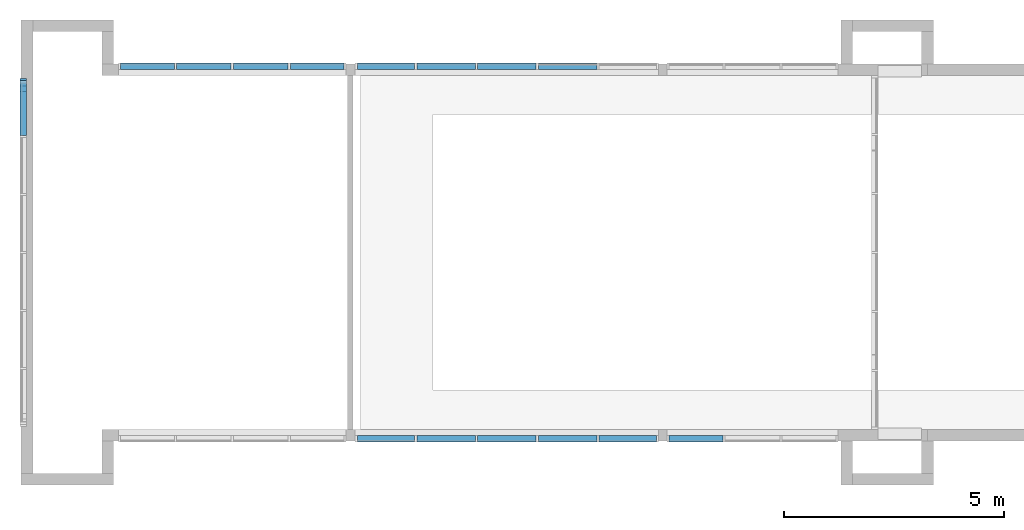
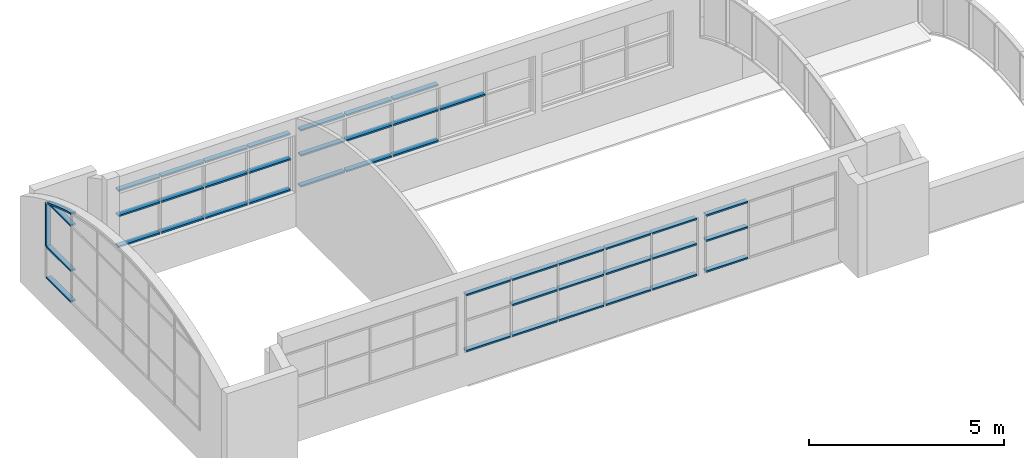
# One storey, part 2 of 14: 44 members, 5 elements without a shape of their own.
"""IFC2X3 building model written with IfcOpenShell, lengths in metres."""

from ifc_helpers import new_model, entity, si_unit, converted_unit, frame, frame_2d, origin, origin_2d_with_axis, place, context, project, spatial, polyline, circle_curve, parameter, trimmed, segment, composite_curve, rectangle, outline, extrude, source, transform, mapped, material, type_object, type_shapes, element, aggregate, save


model = new_model("IFC2X3")

# Units and contexts
model_context = context("Model", 3, precision=1e-09, world=origin())
plan_context = context("Plan", 3, precision=1e-09, world=origin())
ifc_project = project(units=[si_unit("LENGTHUNIT", "METRE"), si_unit("AREAUNIT", "SQUARE_METRE"), si_unit("VOLUMEUNIT", "CUBIC_METRE"), converted_unit("PLANEANGLEUNIT", "DEGREE", entity("IfcRatioMeasure", 0.01745329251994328), si_unit("PLANEANGLEUNIT", "RADIAN"), dimensions=[0, 0, 0, 0, 0, 0, 0]), si_unit("TIMEUNIT", "SECOND")], contexts=[model_context, plan_context])

# Site, building, storey
site_placement = place(None, origin())
site = spatial("IfcSite", under=ifc_project, at=site_placement, Name="Default", CompositionType="ELEMENT")
building_placement = place(site_placement, origin())
building = spatial("IfcBuilding", under=site, at=building_placement, CompositionType="ELEMENT")
storey_placement = place(building_placement, frame((0.0, 0.0, 9.25000000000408)))
storey = spatial("IfcBuildingStorey", under=building, at=storey_placement, Name="Roof - Main", CompositionType="ELEMENT", Elevation=9.25000000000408)

# Curtain wall, members
curtain_wall_1_placement = place(storey_placement, origin())
curtain_wall_1 = element("IfcCurtainWall", 1, at=curtain_wall_1_placement, inside=storey, Name="Curtain Wall:Storefront", ObjectType="Curtain Wall:Storefront")
ifc_material = material(Name="Metal - Aluminium")
member_type_1 = type_object("IfcMemberType", Name="50 x 150mm", PredefinedType="MULLION")
shared_shape_1 = source(origin(), model_context, "Body", "SweptSolid", [
    extrude(rectangle(XDim=0.05, YDim=0.15, at=origin_2d_with_axis()), frame((-0.025, 0.0, -1.330999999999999), z_axis=(0.0, 0.0, 1.0), x_axis=(-1.0, 0.0, 0.0)), (0.0, 0.0, 1.0), 1.330999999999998),
])
type_shapes(member_type_1, [shared_shape_1])
member_1_placement = place(storey_placement, frame((-32.03800000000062, 27.45559600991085, 1.067), z_axis=(-1.0, 0.0, 0.0), x_axis=(0.0, 0.0, -1.0)))
member_1 = element("IfcMember", 2, at=member_1_placement, type_object=member_type_1, material=ifc_material, Name="Rectangular Mullion:50 x 150mm:50 x 150mm", ObjectType="50 x 150mm", context=model_context, shape_type="MappedRepresentation", body=[
    mapped(shared_shape_1, transform((0.0, 0.0, 0.0), scale=1.0)),
])
member_2_placement = place(storey_placement, frame((-29.27600000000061, 27.45559600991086, 1.067), z_axis=(-1.0, 0.0, 0.0), x_axis=(0.0, 0.0, -1.0)))
member_2 = element("IfcMember", 3, at=member_2_placement, type_object=member_type_1, material=ifc_material, Name="Rectangular Mullion:50 x 150mm:50 x 150mm", ObjectType="50 x 150mm", context=model_context, shape_type="MappedRepresentation", body=[
    mapped(shared_shape_1, transform((0.0, 0.0, 0.0), scale=1.0)),
])

curtain_wall_2_placement = place(storey_placement, origin())
curtain_wall_2 = element("IfcCurtainWall", 4, at=curtain_wall_2_placement, inside=storey, Name="Curtain Wall:Storefront", ObjectType="Curtain Wall:Storefront")
member_type_2 = type_object("IfcMemberType", Name="50 x 150mm", PredefinedType="MULLION")
type_shapes(member_type_2, [shared_shape_1])
member_3_placement = place(storey_placement, frame((-30.70700000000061, 35.93490399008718, 2.867), z_axis=(1.0, 0.0, 0.0), x_axis=(0.0, 0.0, 1.0)))
member_3 = element("IfcMember", 5, at=member_3_placement, type_object=member_type_2, material=ifc_material, Name="Rectangular Mullion:50 x 150mm:50 x 150mm", ObjectType="50 x 150mm", context=model_context, shape_type="MappedRepresentation", body=[
    mapped(shared_shape_1, transform((0.0, 0.0, 0.0), scale=1.0)),
])
member_type_3 = type_object("IfcMemberType", Name="50 x 150mm", PredefinedType="MULLION")
type_shapes(member_type_3, [shared_shape_1])
member_4_placement = place(storey_placement, frame((-30.65700000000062, 35.93490399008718, 1.067), z_axis=(-1.0, 0.0, 0.0), x_axis=(0.0, 0.0, -1.0)))
member_4 = element("IfcMember", 6, at=member_4_placement, type_object=member_type_3, material=ifc_material, Name="Rectangular Mullion:50 x 150mm:50 x 150mm", ObjectType="50 x 150mm", context=model_context, shape_type="MappedRepresentation", body=[
    mapped(shared_shape_1, transform((0.0, 0.0, 0.0), scale=1.0)),
])

# Member
member_5_placement = place(storey_placement, frame((-30.65700000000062, 27.45559600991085, 1.067), z_axis=(-1.0, 0.0, 0.0), x_axis=(0.0, 0.0, -1.0)))
member_5 = element("IfcMember", 7, at=member_5_placement, type_object=member_type_1, material=ifc_material, Name="Rectangular Mullion:50 x 150mm:50 x 150mm", ObjectType="50 x 150mm", context=model_context, shape_type="MappedRepresentation", body=[
    mapped(shared_shape_1, transform((0.0, 0.0, 0.0), scale=1.0)),
])

member_6_placement = place(storey_placement, frame((-29.32600000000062, 35.93490399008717, 2.867), z_axis=(1.0, 0.0, 0.0), x_axis=(0.0, 0.0, 1.0)))
member_6 = element("IfcMember", 8, at=member_6_placement, type_object=member_type_2, material=ifc_material, Name="Rectangular Mullion:50 x 150mm:50 x 150mm", ObjectType="50 x 150mm", context=model_context, shape_type="MappedRepresentation", body=[
    mapped(shared_shape_1, transform((0.0, 0.0, 0.0), scale=1.0)),
])

member_7_placement = place(storey_placement, frame((-32.03800000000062, 35.93490399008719, 1.067), z_axis=(-1.0, 0.0, 0.0), x_axis=(0.0, 0.0, -1.0)))
member_7 = element("IfcMember", 9, at=member_7_placement, type_object=member_type_3, material=ifc_material, Name="Rectangular Mullion:50 x 150mm:50 x 150mm", ObjectType="50 x 150mm", context=model_context, shape_type="MappedRepresentation", body=[
    mapped(shared_shape_1, transform((0.0, 0.0, 0.0), scale=1.0)),
])

# Curtain wall, members
curtain_wall_3_placement = place(storey_placement, origin())
curtain_wall_3 = element("IfcCurtainWall", 10, at=curtain_wall_3_placement, inside=storey, Name="Curtain Wall:Storefront", ObjectType="Curtain Wall:Storefront")
member_type_4 = type_object("IfcMemberType", Name="50 x 150mm", PredefinedType="MULLION")
shared_shape_2 = source(origin(), model_context, "Body", "SweptSolid", [
    extrude(rectangle(XDim=0.05, YDim=0.15, at=origin_2d_with_axis()), frame((-0.025, 0.0, -1.22), z_axis=(0.0, 0.0, 1.0), x_axis=(-1.0, 0.0, 0.0)), (0.0, 0.0, 1.0), 1.22),
])
type_shapes(member_type_4, [shared_shape_2])
member_8_placement = place(storey_placement, frame((-34.91600000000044, 35.93490399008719, 1.067), z_axis=(-1.0, 0.0, 0.0), x_axis=(0.0, 0.0, -1.0)))
member_8 = element("IfcMember", 11, at=member_8_placement, type_object=member_type_4, material=ifc_material, Name="Rectangular Mullion:50 x 150mm:50 x 150mm", ObjectType="50 x 150mm", context=model_context, shape_type="MappedRepresentation", body=[
    mapped(shared_shape_2, transform((0.0, 0.0, 0.0), scale=1.0)),
])
member_type_5 = type_object("IfcMemberType", Name="50 x 150mm", PredefinedType="MULLION")
type_shapes(member_type_5, [shared_shape_2])
member_9_placement = place(storey_placement, frame((-37.55600000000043, 35.9349039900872, 2.867), z_axis=(1.0, 0.0, 0.0), x_axis=(0.0, 0.0, 1.0)))
member_9 = element("IfcMember", 12, at=member_9_placement, type_object=member_type_5, material=ifc_material, Name="Rectangular Mullion:50 x 150mm:50 x 150mm", ObjectType="50 x 150mm", context=model_context, shape_type="MappedRepresentation", body=[
    mapped(shared_shape_2, transform((0.0, 0.0, 0.0), scale=1.0)),
])
member_10_placement = place(storey_placement, frame((-33.69600000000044, 35.93490399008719, 2.867), z_axis=(1.0, 0.0, 0.0), x_axis=(0.0, 0.0, 1.0)))
member_10 = element("IfcMember", 13, at=member_10_placement, type_object=member_type_5, material=ifc_material, Name="Rectangular Mullion:50 x 150mm:50 x 150mm", ObjectType="50 x 150mm", context=model_context, shape_type="MappedRepresentation", body=[
    mapped(shared_shape_2, transform((0.0, 0.0, 0.0), scale=1.0)),
])
member_11_placement = place(storey_placement, frame((-38.77600000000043, 35.93490399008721, 1.067), z_axis=(-1.0, 0.0, 0.0), x_axis=(0.0, 0.0, -1.0)))
member_11 = element("IfcMember", 14, at=member_11_placement, type_object=member_type_4, material=ifc_material, Name="Rectangular Mullion:50 x 150mm:50 x 150mm", ObjectType="50 x 150mm", context=model_context, shape_type="MappedRepresentation", body=[
    mapped(shared_shape_2, transform((0.0, 0.0, 0.0), scale=1.0)),
])

curtain_wall_4_placement = place(storey_placement, origin())
curtain_wall_4 = element("IfcCurtainWall", 15, at=curtain_wall_4_placement, inside=storey, Name="Curtain Wall:Storefront", ObjectType="Curtain Wall:Storefront")
member_type_6 = type_object("IfcMemberType", Name="50 x 150mm", PredefinedType="MULLION")
shared_shape_3 = source(origin(), model_context, "Body", "SweptSolid", [
    extrude(rectangle(XDim=0.05, YDim=0.15, at=origin_2d_with_axis()), frame((0.0, 0.0, -1.221666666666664), z_axis=(0.0, 0.0, 1.0), x_axis=(-1.0, 0.0, 0.0)), (0.0, 0.0, 1.0), 1.221666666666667),
])
type_shapes(member_type_6, [shared_shape_3])
member_12_placement = place(storey_placement, frame((-25.07833333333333, 27.45559600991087, 2.053894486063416), z_axis=(1.0, 0.0, 0.0), x_axis=(0.0, 0.0, 1.0)))
member_12 = element("IfcMember", 16, at=member_12_placement, type_object=member_type_6, material=ifc_material, Name="Rectangular Mullion:50 x 150mm:50 x 150mm", ObjectType="50 x 150mm", context=model_context, shape_type="MappedRepresentation", body=[
    mapped(shared_shape_3, transform((0.0, 0.0, 0.0), scale=1.0)),
])
member_type_7 = type_object("IfcMemberType", Name="50 x 150mm", PredefinedType="MULLION")
shared_shape_4 = source(origin(), model_context, "Body", "SweptSolid", [
    extrude(rectangle(XDim=0.05, YDim=0.15, at=origin_2d_with_axis()), frame((-0.025, 0.0, -1.221666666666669), z_axis=(0.0, 0.0, 1.0), x_axis=(-1.0, 0.0, 0.0)), (0.0, 0.0, 1.0), 1.221666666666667),
])
type_shapes(member_type_7, [shared_shape_4])
member_13_placement = place(storey_placement, frame((-26.29999999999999, 27.45559600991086, 1.067), z_axis=(-1.0, 0.0, 0.0), x_axis=(0.0, 0.0, -1.0)))
member_13 = element("IfcMember", 17, at=member_13_placement, type_object=member_type_7, material=ifc_material, Name="Rectangular Mullion:50 x 150mm:50 x 150mm", ObjectType="50 x 150mm", context=model_context, shape_type="MappedRepresentation", body=[
    mapped(shared_shape_4, transform((0.0, 0.0, 0.0), scale=1.0)),
])
member_type_8 = type_object("IfcMemberType", Name="50 x 150mm", PredefinedType="MULLION")
shared_shape_5 = source(origin(), model_context, "Body", "SweptSolid", [
    extrude(rectangle(XDim=0.05, YDim=0.15, at=origin_2d_with_axis()), frame((-0.025, 0.0, -1.221666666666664), z_axis=(0.0, 0.0, 1.0), x_axis=(-1.0, 0.0, 0.0)), (0.0, 0.0, 1.0), 1.221666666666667),
])
type_shapes(member_type_8, [shared_shape_5])
member_14_placement = place(storey_placement, frame((-25.07833333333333, 27.45559600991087, 2.867), z_axis=(1.0, 0.0, 0.0), x_axis=(0.0, 0.0, 1.0)))
member_14 = element("IfcMember", 18, at=member_14_placement, type_object=member_type_8, material=ifc_material, Name="Rectangular Mullion:50 x 150mm:50 x 150mm", ObjectType="50 x 150mm", context=model_context, shape_type="MappedRepresentation", body=[
    mapped(shared_shape_5, transform((0.0, 0.0, 0.0), scale=1.0)),
])
aggregate(curtain_wall_4, [member_12, member_14, member_13])

# Member
member_type_9 = type_object("IfcMemberType", Name="50 x 150mm", PredefinedType="MULLION")
shared_shape_6 = source(origin(), model_context, "Body", "SweptSolid", [
    extrude(rectangle(XDim=0.05, YDim=0.15, at=origin_2d_with_axis()), frame((-0.025, 0.0, -1.305999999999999), z_axis=(0.0, 0.0, 1.0), x_axis=(-1.0, 0.0, 0.0)), (0.0, 0.0, 1.0), 1.305999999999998),
])
type_shapes(member_type_9, [shared_shape_6])
member_15_placement = place(storey_placement, frame((-33.39400000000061, 27.45559600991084, 1.067), z_axis=(-1.0, 0.0, 0.0), x_axis=(0.0, 0.0, -1.0)))
member_15 = element("IfcMember", 19, at=member_15_placement, type_object=member_type_9, material=ifc_material, Name="Rectangular Mullion:50 x 150mm:50 x 150mm", ObjectType="50 x 150mm", context=model_context, shape_type="MappedRepresentation", body=[
    mapped(shared_shape_6, transform((0.0, 0.0, 0.0), scale=1.0)),
])

member_type_10 = type_object("IfcMemberType", Name="50 x 150mm", PredefinedType="MULLION")
type_shapes(member_type_10, [shared_shape_6])
member_16_placement = place(storey_placement, frame((-33.39400000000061, 35.93490399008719, 1.067), z_axis=(-1.0, 0.0, 0.0), x_axis=(0.0, 0.0, -1.0)))
member_16 = element("IfcMember", 20, at=member_16_placement, type_object=member_type_10, material=ifc_material, Name="Rectangular Mullion:50 x 150mm:50 x 150mm", ObjectType="50 x 150mm", context=model_context, shape_type="MappedRepresentation", body=[
    mapped(shared_shape_6, transform((0.0, 0.0, 0.0), scale=1.0)),
])

member_17_placement = place(storey_placement, frame((-27.89500000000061, 27.45559600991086, 1.067), z_axis=(-1.0, 0.0, 0.0), x_axis=(0.0, 0.0, -1.0)))
member_17 = element("IfcMember", 21, at=member_17_placement, type_object=member_type_9, material=ifc_material, Name="Rectangular Mullion:50 x 150mm:50 x 150mm", ObjectType="50 x 150mm", context=model_context, shape_type="MappedRepresentation", body=[
    mapped(shared_shape_6, transform((0.0, 0.0, 0.0), scale=1.0)),
])

member_type_11 = type_object("IfcMemberType", Name="50 x 150mm", PredefinedType="MULLION")
shared_shape_7 = source(origin(), model_context, "Body", "SweptSolid", [
    extrude(rectangle(XDim=0.05, YDim=0.15, at=origin_2d_with_axis()), frame((-0.025, 0.0, -1.306000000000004), z_axis=(0.0, 0.0, 1.0), x_axis=(-1.0, 0.0, 0.0)), (0.0, 0.0, 1.0), 1.306000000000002),
])
type_shapes(member_type_11, [shared_shape_7])
member_18_placement = place(storey_placement, frame((-26.58900000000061, 27.45559600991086, 2.867), z_axis=(1.0, 0.0, 0.0), x_axis=(0.0, 0.0, 1.0)))
member_18 = element("IfcMember", 22, at=member_18_placement, type_object=member_type_11, material=ifc_material, Name="Rectangular Mullion:50 x 150mm:50 x 150mm", ObjectType="50 x 150mm", context=model_context, shape_type="MappedRepresentation", body=[
    mapped(shared_shape_7, transform((0.0, 0.0, 0.0), scale=1.0)),
])

member_type_12 = type_object("IfcMemberType", Name="50 x 150mm", PredefinedType="MULLION")
type_shapes(member_type_12, [shared_shape_7])
member_19_placement = place(storey_placement, frame((-32.08800000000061, 35.93490399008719, 2.867), z_axis=(1.0, 0.0, 0.0), x_axis=(0.0, 0.0, 1.0)))
member_19 = element("IfcMember", 23, at=member_19_placement, type_object=member_type_12, material=ifc_material, Name="Rectangular Mullion:50 x 150mm:50 x 150mm", ObjectType="50 x 150mm", context=model_context, shape_type="MappedRepresentation", body=[
    mapped(shared_shape_7, transform((0.0, 0.0, 0.0), scale=1.0)),
])

member_20_placement = place(storey_placement, frame((-32.08800000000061, 27.45559600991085, 2.867), z_axis=(1.0, 0.0, 0.0), x_axis=(0.0, 0.0, 1.0)))
member_20 = element("IfcMember", 24, at=member_20_placement, type_object=member_type_11, material=ifc_material, Name="Rectangular Mullion:50 x 150mm:50 x 150mm", ObjectType="50 x 150mm", context=model_context, shape_type="MappedRepresentation", body=[
    mapped(shared_shape_7, transform((0.0, 0.0, 0.0), scale=1.0)),
])

member_type_13 = type_object("IfcMemberType", Name="50 x 150mm", PredefinedType="MULLION")
shared_shape_8 = source(origin(), model_context, "Body", "SweptSolid", [
    extrude(rectangle(XDim=0.05, YDim=0.15, at=origin_2d_with_axis()), frame((0.0, 0.0, -1.330999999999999), z_axis=(0.0, 0.0, 1.0), x_axis=(-1.0, 0.0, 0.0)), (0.0, 0.0, 1.0), 1.330999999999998),
])
type_shapes(member_type_13, [shared_shape_8])
member_21_placement = place(storey_placement, frame((-27.94500000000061, 35.93490399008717, 2.053894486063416), z_axis=(1.0, 0.0, 0.0), x_axis=(0.0, 0.0, 1.0)))
member_21 = element("IfcMember", 25, at=member_21_placement, type_object=member_type_13, material=ifc_material, Name="Rectangular Mullion:50 x 150mm:50 x 150mm", ObjectType="50 x 150mm", context=model_context, shape_type="MappedRepresentation", body=[
    mapped(shared_shape_8, transform((0.0, 0.0, 0.0), scale=1.0)),
])

member_22_placement = place(storey_placement, frame((-29.32600000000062, 35.93490399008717, 2.053894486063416), z_axis=(1.0, 0.0, 0.0), x_axis=(0.0, 0.0, 1.0)))
member_22 = element("IfcMember", 26, at=member_22_placement, type_object=member_type_13, material=ifc_material, Name="Rectangular Mullion:50 x 150mm:50 x 150mm", ObjectType="50 x 150mm", context=model_context, shape_type="MappedRepresentation", body=[
    mapped(shared_shape_8, transform((0.0, 0.0, 0.0), scale=1.0)),
])

member_23_placement = place(storey_placement, frame((-30.70700000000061, 35.93490399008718, 2.053894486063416), z_axis=(1.0, 0.0, 0.0), x_axis=(0.0, 0.0, 1.0)))
member_23 = element("IfcMember", 27, at=member_23_placement, type_object=member_type_13, material=ifc_material, Name="Rectangular Mullion:50 x 150mm:50 x 150mm", ObjectType="50 x 150mm", context=model_context, shape_type="MappedRepresentation", body=[
    mapped(shared_shape_8, transform((0.0, 0.0, 0.0), scale=1.0)),
])

member_type_14 = type_object("IfcMemberType", Name="50 x 150mm", PredefinedType="MULLION")
shared_shape_9 = source(origin(), model_context, "Body", "SweptSolid", [
    extrude(rectangle(XDim=0.05, YDim=0.15, at=origin_2d_with_axis()), frame((0.0, 0.0, -1.331), z_axis=(0.0, 0.0, 1.0), x_axis=(-1.0, 0.0, 0.0)), (0.0, 0.0, 1.0), 1.330999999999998),
])
type_shapes(member_type_14, [shared_shape_9])
member_24_placement = place(storey_placement, frame((-29.32600000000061, 27.45559600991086, 2.053894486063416), z_axis=(1.0, 0.0, 0.0), x_axis=(0.0, 0.0, 1.0)))
member_24 = element("IfcMember", 28, at=member_24_placement, type_object=member_type_14, material=ifc_material, Name="Rectangular Mullion:50 x 150mm:50 x 150mm", ObjectType="50 x 150mm", context=model_context, shape_type="MappedRepresentation", body=[
    mapped(shared_shape_9, transform((0.0, 0.0, 0.0), scale=1.0)),
])

member_25_placement = place(storey_placement, frame((-30.70700000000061, 27.45559600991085, 2.053894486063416), z_axis=(1.0, 0.0, 0.0), x_axis=(0.0, 0.0, 1.0)))
member_25 = element("IfcMember", 29, at=member_25_placement, type_object=member_type_14, material=ifc_material, Name="Rectangular Mullion:50 x 150mm:50 x 150mm", ObjectType="50 x 150mm", context=model_context, shape_type="MappedRepresentation", body=[
    mapped(shared_shape_9, transform((0.0, 0.0, 0.0), scale=1.0)),
])

member_26_placement = place(storey_placement, frame((-27.94500000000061, 27.45559600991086, 2.053894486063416), z_axis=(1.0, 0.0, 0.0), x_axis=(0.0, 0.0, 1.0)))
member_26 = element("IfcMember", 30, at=member_26_placement, type_object=member_type_14, material=ifc_material, Name="Rectangular Mullion:50 x 150mm:50 x 150mm", ObjectType="50 x 150mm", context=model_context, shape_type="MappedRepresentation", body=[
    mapped(shared_shape_9, transform((0.0, 0.0, 0.0), scale=1.0)),
])

member_type_15 = type_object("IfcMemberType", Name="50 x 150mm", PredefinedType="MULLION")
shared_shape_10 = source(origin(), model_context, "Body", "SweptSolid", [
    extrude(rectangle(XDim=0.05, YDim=0.15, at=origin_2d_with_axis()), frame((-0.025, 0.0, -1.331), z_axis=(0.0, 0.0, 1.0), x_axis=(-1.0, 0.0, 0.0)), (0.0, 0.0, 1.0), 1.330999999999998),
])
type_shapes(member_type_15, [shared_shape_10])
member_27_placement = place(storey_placement, frame((-30.70700000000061, 27.45559600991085, 2.867), z_axis=(1.0, 0.0, 0.0), x_axis=(0.0, 0.0, 1.0)))
member_27 = element("IfcMember", 31, at=member_27_placement, type_object=member_type_15, material=ifc_material, Name="Rectangular Mullion:50 x 150mm:50 x 150mm", ObjectType="50 x 150mm", context=model_context, shape_type="MappedRepresentation", body=[
    mapped(shared_shape_10, transform((0.0, 0.0, 0.0), scale=1.0)),
])

member_28_placement = place(storey_placement, frame((-29.32600000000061, 27.45559600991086, 2.867), z_axis=(1.0, 0.0, 0.0), x_axis=(0.0, 0.0, 1.0)))
member_28 = element("IfcMember", 32, at=member_28_placement, type_object=member_type_15, material=ifc_material, Name="Rectangular Mullion:50 x 150mm:50 x 150mm", ObjectType="50 x 150mm", context=model_context, shape_type="MappedRepresentation", body=[
    mapped(shared_shape_10, transform((0.0, 0.0, 0.0), scale=1.0)),
])

member_29_placement = place(storey_placement, frame((-27.94500000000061, 27.45559600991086, 2.867), z_axis=(1.0, 0.0, 0.0), x_axis=(0.0, 0.0, 1.0)))
member_29 = element("IfcMember", 33, at=member_29_placement, type_object=member_type_15, material=ifc_material, Name="Rectangular Mullion:50 x 150mm:50 x 150mm", ObjectType="50 x 150mm", context=model_context, shape_type="MappedRepresentation", body=[
    mapped(shared_shape_10, transform((0.0, 0.0, 0.0), scale=1.0)),
])

# Curtain wall, member
curtain_wall_5_placement = place(storey_placement, origin())
curtain_wall_5 = element("IfcCurtainWall", 34, at=curtain_wall_5_placement, inside=storey, Name="Curtain Wall:Storefront", ObjectType="Curtain Wall:Storefront")
member_type_16 = type_object("IfcMemberType", Name="50 x 150mm", PredefinedType="MULLION")
shared_shape_11 = source(origin(), model_context, "Body", "SweptSolid", [
    extrude(rectangle(XDim=0.05, YDim=0.15, at=origin_2d_with_axis()), frame((0.0, 0.0, -1.244395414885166), z_axis=(0.0, 0.0, 1.0), x_axis=(-1.0, 0.0, 0.0)), (0.0, 0.0, 1.0), 1.244395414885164),
])
type_shapes(member_type_16, [shared_shape_11])
member_30_placement = place(storey_placement, frame((-40.99000000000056, 35.60318624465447, 2.053894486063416), z_axis=(0.0, 1.0, 0.0), x_axis=(0.0, 0.0, 1.0)))
member_30 = element("IfcMember", 35, at=member_30_placement, type_object=member_type_16, material=ifc_material, Name="Rectangular Mullion:50 x 150mm:50 x 150mm", ObjectType="50 x 150mm", context=model_context, shape_type="MappedRepresentation", body=[
    mapped(shared_shape_11, transform((0.0, 0.0, 0.0), scale=1.0)),
])

# Member
member_type_17 = type_object("IfcMemberType", Name="50 x 150mm", PredefinedType="MULLION")
shared_shape_12 = source(origin(), model_context, "Body", "SweptSolid", [
    extrude(rectangle(XDim=0.05, YDim=0.15, at=origin_2d_with_axis()), frame((0.0, 0.0, -1.305999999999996), z_axis=(0.0, 0.0, 1.0), x_axis=(-1.0, 0.0, 0.0)), (0.0, 0.0, 1.0), 1.305999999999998),
])
type_shapes(member_type_17, [shared_shape_12])
member_31_placement = place(storey_placement, frame((-32.08800000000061, 35.93490399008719, 2.053894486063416), z_axis=(1.0, 0.0, 0.0), x_axis=(0.0, 0.0, 1.0)))
member_31 = element("IfcMember", 36, at=member_31_placement, type_object=member_type_17, material=ifc_material, Name="Rectangular Mullion:50 x 150mm:50 x 150mm", ObjectType="50 x 150mm", context=model_context, shape_type="MappedRepresentation", body=[
    mapped(shared_shape_12, transform((0.0, 0.0, 0.0), scale=1.0)),
])

aggregate(curtain_wall_2, [member_21, member_31, member_22, member_23, member_3, member_16, member_4, member_19, member_6, member_7])

member_type_18 = type_object("IfcMemberType", Name="50 x 150mm", PredefinedType="MULLION")
shared_shape_13 = source(origin(), model_context, "Body", "SweptSolid", [
    extrude(rectangle(XDim=0.05, YDim=0.15, at=origin_2d_with_axis()), frame((0.0, 0.0, -1.305999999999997), z_axis=(0.0, 0.0, 1.0), x_axis=(-1.0, 0.0, 0.0)), (0.0, 0.0, 1.0), 1.305999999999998),
])
type_shapes(member_type_18, [shared_shape_13])
member_32_placement = place(storey_placement, frame((-26.58900000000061, 27.45559600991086, 2.053894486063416), z_axis=(1.0, 0.0, 0.0), x_axis=(0.0, 0.0, 1.0)))
member_32 = element("IfcMember", 37, at=member_32_placement, type_object=member_type_18, material=ifc_material, Name="Rectangular Mullion:50 x 150mm:50 x 150mm", ObjectType="50 x 150mm", context=model_context, shape_type="MappedRepresentation", body=[
    mapped(shared_shape_13, transform((0.0, 0.0, 0.0), scale=1.0)),
])

aggregate(curtain_wall_1, [member_18, member_1, member_24, member_27, member_2, member_25, member_15, member_26, member_17, member_5, member_28, member_32, member_29, member_20])

member_type_19 = type_object("IfcMemberType", Name="50 x 150mm", PredefinedType="MULLION")
shared_shape_14 = source(origin(), model_context, "Body", "SweptSolid", [
    extrude(rectangle(XDim=0.05, YDim=0.15, at=origin_2d_with_axis()), frame((-0.025, 0.0, -1.245), z_axis=(0.0, 0.0, 1.0), x_axis=(-1.0, 0.0, 0.0)), (0.0, 0.0, 1.0), 1.245),
])
type_shapes(member_type_19, [shared_shape_14])
member_33_placement = place(storey_placement, frame((-36.26100000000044, 35.93490399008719, 2.867), z_axis=(1.0, 0.0, 0.0), x_axis=(0.0, 0.0, 1.0)))
member_33 = element("IfcMember", 38, at=member_33_placement, type_object=member_type_19, material=ifc_material, Name="Rectangular Mullion:50 x 150mm:50 x 150mm", ObjectType="50 x 150mm", context=model_context, shape_type="MappedRepresentation", body=[
    mapped(shared_shape_14, transform((0.0, 0.0, 0.0), scale=1.0)),
])

member_34_placement = place(storey_placement, frame((-34.96600000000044, 35.93490399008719, 2.867), z_axis=(1.0, 0.0, 0.0), x_axis=(0.0, 0.0, 1.0)))
member_34 = element("IfcMember", 39, at=member_34_placement, type_object=member_type_19, material=ifc_material, Name="Rectangular Mullion:50 x 150mm:50 x 150mm", ObjectType="50 x 150mm", context=model_context, shape_type="MappedRepresentation", body=[
    mapped(shared_shape_14, transform((0.0, 0.0, 0.0), scale=1.0)),
])

member_type_20 = type_object("IfcMemberType", Name="50 x 150mm", PredefinedType="MULLION")
shared_shape_15 = source(origin(), model_context, "Body", "SweptSolid", [
    extrude(rectangle(XDim=0.05, YDim=0.15, at=origin_2d_with_axis()), frame((-0.025, 0.0, -1.245000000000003), z_axis=(0.0, 0.0, 1.0), x_axis=(-1.0, 0.0, 0.0)), (0.0, 0.0, 1.0), 1.245),
])
type_shapes(member_type_20, [shared_shape_15])
member_35_placement = place(storey_placement, frame((-36.21100000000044, 35.93490399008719, 1.067), z_axis=(-1.0, 0.0, 0.0), x_axis=(0.0, 0.0, -1.0)))
member_35 = element("IfcMember", 40, at=member_35_placement, type_object=member_type_20, material=ifc_material, Name="Rectangular Mullion:50 x 150mm:50 x 150mm", ObjectType="50 x 150mm", context=model_context, shape_type="MappedRepresentation", body=[
    mapped(shared_shape_15, transform((0.0, 0.0, 0.0), scale=1.0)),
])

member_36_placement = place(storey_placement, frame((-37.50600000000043, 35.9349039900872, 1.067), z_axis=(-1.0, 0.0, 0.0), x_axis=(0.0, 0.0, -1.0)))
member_36 = element("IfcMember", 41, at=member_36_placement, type_object=member_type_20, material=ifc_material, Name="Rectangular Mullion:50 x 150mm:50 x 150mm", ObjectType="50 x 150mm", context=model_context, shape_type="MappedRepresentation", body=[
    mapped(shared_shape_15, transform((0.0, 0.0, 0.0), scale=1.0)),
])

member_type_21 = type_object("IfcMemberType", Name="50 x 150mm", PredefinedType="MULLION")
shared_shape_16 = source(origin(), model_context, "Body", "SweptSolid", [
    extrude(rectangle(XDim=0.05, YDim=0.15, at=origin_2d_with_axis()), frame((-0.025, 0.0, -1.244395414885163), z_axis=(0.0, 0.0, 1.0), x_axis=(-1.0, 0.0, 0.0)), (0.0, 0.0, 1.0), 1.244395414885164),
])
type_shapes(member_type_21, [shared_shape_16])
member_37_placement = place(storey_placement, frame((-40.99000000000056, 34.35879082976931, 1.067), z_axis=(0.0, -1.0, 0.0), x_axis=(0.0, 0.0, -1.0)))
member_37 = element("IfcMember", 42, at=member_37_placement, type_object=member_type_21, material=ifc_material, Name="Rectangular Mullion:50 x 150mm:50 x 150mm", ObjectType="50 x 150mm", context=model_context, shape_type="MappedRepresentation", body=[
    mapped(shared_shape_16, transform((0.0, 0.0, 0.0), scale=1.0)),
])

member_type_22 = type_object("IfcMemberType", Name="50 x 150mm", PredefinedType="MULLION")
shared_shape_17 = source(origin(), model_context, "Body", "SweptSolid", [
    extrude(rectangle(XDim=0.05, YDim=0.15, at=origin_2d_with_axis()), frame((0.0, 0.0, -1.22), z_axis=(0.0, 0.0, 1.0), x_axis=(-1.0, 0.0, 0.0)), (0.0, 0.0, 1.0), 1.22),
])
type_shapes(member_type_22, [shared_shape_17])
member_38_placement = place(storey_placement, frame((-37.55600000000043, 35.9349039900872, 2.053894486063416), z_axis=(1.0, 0.0, 0.0), x_axis=(0.0, 0.0, 1.0)))
member_38 = element("IfcMember", 43, at=member_38_placement, type_object=member_type_22, material=ifc_material, Name="Rectangular Mullion:50 x 150mm:50 x 150mm", ObjectType="50 x 150mm", context=model_context, shape_type="MappedRepresentation", body=[
    mapped(shared_shape_17, transform((0.0, 0.0, 0.0), scale=1.0)),
])

member_39_placement = place(storey_placement, frame((-33.69600000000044, 35.93490399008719, 2.053894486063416), z_axis=(1.0, 0.0, 0.0), x_axis=(0.0, 0.0, 1.0)))
member_39 = element("IfcMember", 44, at=member_39_placement, type_object=member_type_22, material=ifc_material, Name="Rectangular Mullion:50 x 150mm:50 x 150mm", ObjectType="50 x 150mm", context=model_context, shape_type="MappedRepresentation", body=[
    mapped(shared_shape_17, transform((0.0, 0.0, 0.0), scale=1.0)),
])

member_type_23 = type_object("IfcMemberType", Name="50 x 150mm", PredefinedType="MULLION")
shared_shape_18 = source(origin(), model_context, "Body", "SweptSolid", [
    extrude(rectangle(XDim=0.05, YDim=0.15, at=origin_2d_with_axis()), frame((0.0, 0.0, -1.245), z_axis=(0.0, 0.0, 1.0), x_axis=(-1.0, 0.0, 0.0)), (0.0, 0.0, 1.0), 1.245),
])
type_shapes(member_type_23, [shared_shape_18])
member_40_placement = place(storey_placement, frame((-36.26100000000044, 35.93490399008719, 2.053894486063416), z_axis=(1.0, 0.0, 0.0), x_axis=(0.0, 0.0, 1.0)))
member_40 = element("IfcMember", 45, at=member_40_placement, type_object=member_type_23, material=ifc_material, Name="Rectangular Mullion:50 x 150mm:50 x 150mm", ObjectType="50 x 150mm", context=model_context, shape_type="MappedRepresentation", body=[
    mapped(shared_shape_18, transform((0.0, 0.0, 0.0), scale=1.0)),
])

member_41_placement = place(storey_placement, frame((-34.96600000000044, 35.93490399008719, 2.053894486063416), z_axis=(1.0, 0.0, 0.0), x_axis=(0.0, 0.0, 1.0)))
member_41 = element("IfcMember", 46, at=member_41_placement, type_object=member_type_23, material=ifc_material, Name="Rectangular Mullion:50 x 150mm:50 x 150mm", ObjectType="50 x 150mm", context=model_context, shape_type="MappedRepresentation", body=[
    mapped(shared_shape_18, transform((0.0, 0.0, 0.0), scale=1.0)),
])

aggregate(curtain_wall_3, [member_38, member_8, member_9, member_35, member_33, member_34, member_10, member_40, member_41, member_11, member_39, member_36])

member_type_24 = type_object("IfcMemberType", Name="50 x 150mm", PredefinedType="MULLION")
shared_shape_19 = source(origin(), model_context, "Body", "SweptSolid", [
    extrude(outline(polyline([(-0.6772773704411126, -0.025), (0.6938774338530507, -0.025), (0.6606773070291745, 0.025), (-0.6772773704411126, 0.025), (-0.6772773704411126, -0.025)])), frame((-0.025, -0.07499999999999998, -0.6772773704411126), z_axis=(0.0, 1.0, 0.0), x_axis=(0.0, 0.0, -1.0)), (0.0, 0.0, 1.0), 0.15),
])
type_shapes(member_type_24, [shared_shape_19])
member_42_placement = place(storey_placement, frame((-40.99000000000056, 35.65318624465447, 2.053894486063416), z_axis=(0.0, 0.0, -1.0), x_axis=(0.0, 1.0, 0.0)))
member_42 = element("IfcMember", 47, at=member_42_placement, type_object=member_type_24, material=ifc_material, Name="Rectangular Mullion:50 x 150mm:50 x 150mm", ObjectType="50 x 150mm", context=model_context, shape_type="MappedRepresentation", body=[
    mapped(shared_shape_19, transform((0.0, 0.0, 0.0), scale=1.0)),
])

member_type_25 = type_object("IfcMemberType", Name="50 x 150mm", PredefinedType="MULLION")
shared_shape_20 = source(origin(), model_context, "Body", "SweptSolid", [
    extrude(outline(composite_curve([segment(polyline([(-0.4657523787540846, -0.02499999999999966), (0.5291810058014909, -0.02499999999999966)]), True, "CONTINUOUS"), segment(polyline([(0.5291810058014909, -0.02499999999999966), (0.5291810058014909, 0.02500000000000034)]), True, "CONTINUOUS"), segment(polyline([(0.5291810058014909, 0.02500000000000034), (-0.5926096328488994, 0.02500000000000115)]), True, "CONTINUOUS"), segment(trimmed(circle_curve(frame_2d((3.19297183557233, 9.443641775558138), x_axis=(-0.3781053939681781, -0.92576255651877)), 10.15093295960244), [parameter(0.3199800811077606)], [parameter(1.089627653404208)], True, "PARAMETER"), True, "CONTINUOUS")], self_intersect=False)), frame((0.0, -0.07500000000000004, -0.6640559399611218), z_axis=(0.0, 1.0, 0.0), x_axis=(0.0, 0.0, -1.0)), (0.0, 0.0, 1.0), 0.15),
])
type_shapes(member_type_25, [shared_shape_20])
member_43_placement = place(storey_placement, frame((-40.99000000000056, 35.55202777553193, 3.467000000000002), z_axis=(0.0, 1.0, 0.0), x_axis=(0.0, 0.0, 1.0)))
member_43 = element("IfcMember", 48, at=member_43_placement, type_object=member_type_25, material=ifc_material, Name="Rectangular Mullion:50 x 150mm:50 x 150mm", ObjectType="50 x 150mm", context=model_context, shape_type="MappedRepresentation", body=[
    mapped(shared_shape_20, transform((0.0, 0.0, 0.0), scale=1.0)),
])

member_type_26 = type_object("IfcMemberType", Name="50 x 150mm", PredefinedType="MULLION")
shared_shape_21 = source(origin(), model_context, "Body", "SweptSolid", [
    extrude(outline(composite_curve([segment(polyline([(-0.06539377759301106, -0.6398536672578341), (-0.01539377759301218, -0.639853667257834)]), True, "CONTINUOUS"), segment(trimmed(circle_curve(frame_2d((10.13553918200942, -0.6398536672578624), x_axis=(-0.9920609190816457, 0.1257582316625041)), 10.15093295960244), [parameter(3.562221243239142e-13)], [parameter(7.224544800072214)], True, "PARAMETER"), False, "CONTINUOUS"), segment(polyline([(0.06519530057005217, 0.6367097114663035), (0.01559225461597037, 0.6429976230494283)]), True, "CONTINUOUS"), segment(trimmed(circle_curve(frame_2d((10.13553918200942, -0.6398536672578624), x_axis=(-0.9920609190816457, 0.1257582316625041)), 10.20093295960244), [parameter(3.562221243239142e-13)], [parameter(7.224544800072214)], True, "PARAMETER"), True, "CONTINUOUS")], self_intersect=False)), frame((-0.06539377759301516, -0.075, -0.6398536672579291), z_axis=(0.0, 1.0, 0.0), x_axis=(-0.9920609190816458, 0.0, 0.1257582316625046)), (0.0, 0.0, 1.0), 0.1499999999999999),
])
type_shapes(member_type_26, [shared_shape_21])
member_44_placement = place(storey_placement, frame((-40.99000000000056, 35.55202777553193, 3.467000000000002), z_axis=(0.0, 0.9257625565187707, -0.3781053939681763), x_axis=(0.0, 0.3781053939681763, 0.9257625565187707)))
member_44 = element("IfcMember", 49, at=member_44_placement, type_object=member_type_26, material=ifc_material, Name="Rectangular Mullion:50 x 150mm:50 x 150mm", ObjectType="50 x 150mm", context=model_context, shape_type="MappedRepresentation", body=[
    mapped(shared_shape_21, transform((0.0, 0.0, 0.0), scale=1.0)),
])

aggregate(curtain_wall_5, [member_30, member_43, member_37, member_42, member_44])

save(model, "model.ifc")
